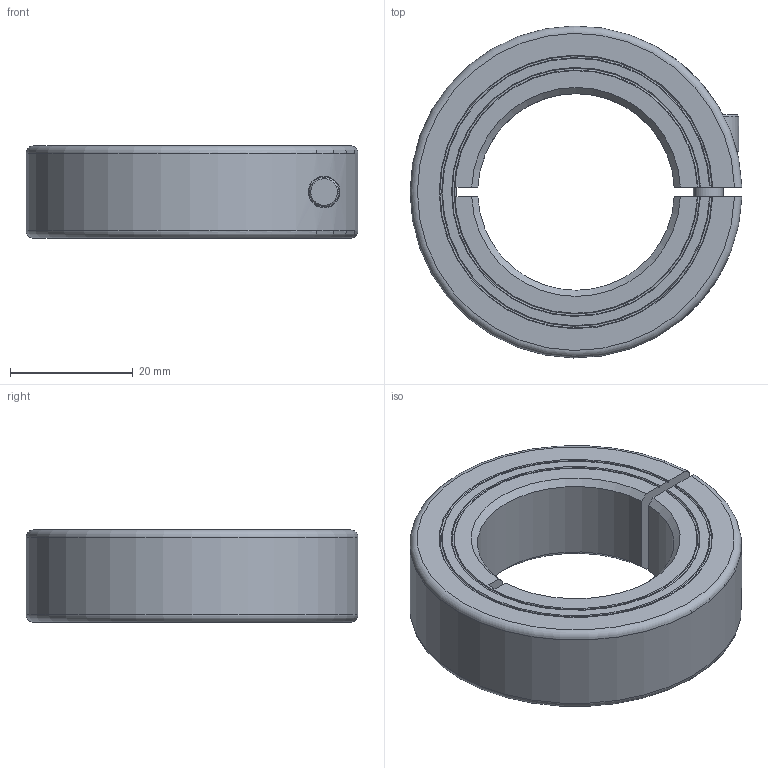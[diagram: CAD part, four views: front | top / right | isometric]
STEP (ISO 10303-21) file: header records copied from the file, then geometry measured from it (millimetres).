
FILE_DESCRIPTION((''),'2;1');
FILE_NAME('MCL-32-F','2016-09-08T',('SYSTEM'),(''),'PRO/ENGINEER BY PARAMETRIC TECHNOLOGY CORPORATION, 2015110','PRO/ENGINEER BY PARAMETRIC TECHNOLOGY CORPORATION, 2015110','');
FILE_SCHEMA(('AUTOMOTIVE_DESIGN { 1 0 10303 214 1 1 1 1 }'));
Length unit declared in the file: inch
Products named in the file (1): MCL-32-F
Bounding box: 53.99 x 53.99 x 15 mm (x, y, z)
Volume: 21133.3 mm3; surface area: 8167.2 mm2
Topology: 1 solids, 1 shells, 49 faces, 128 edges, 85 vertices
Faces by surface type: plane 21, cylinder 12, cone 12, torus 4
Entity records: 2052 total; most frequent: CARTESIAN_POINT 439, ORIENTED_EDGE 256, DIRECTION 245, EDGE_CURVE 128, AXIS2_PLACEMENT_3D 95, VERTEX_POINT 85, VECTOR 55, LINE 55
